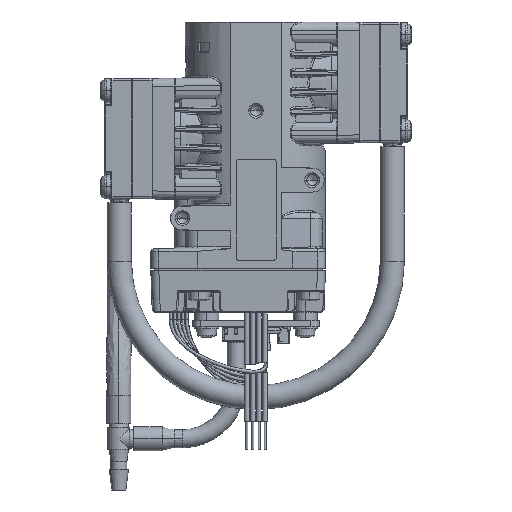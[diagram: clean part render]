
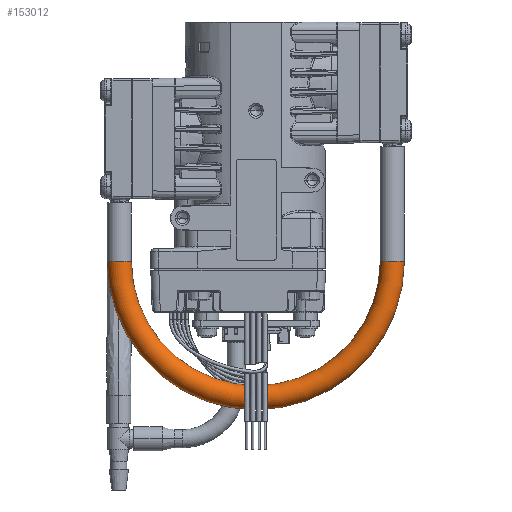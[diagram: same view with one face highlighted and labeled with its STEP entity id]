
A CAD part, left-side view. The second image highlights one B-rep face of the part: STEP entity #153012.
In plain terms, the highlighted toroidal (fillet/blend) face has major radius 34 mm and minor radius 3 mm.
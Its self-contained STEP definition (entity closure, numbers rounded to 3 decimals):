
#28672=CARTESIAN_POINT('',(-7.5,0.04,-30.5));
#28673=DIRECTION('',(1.,0.,0.));
#28674=DIRECTION('',(0.,-1.,0.));
#28675=AXIS2_PLACEMENT_3D('',#28672,#28673,#28674);
#28695=CARTESIAN_POINT('',(-7.5,-33.96,-30.5));
#28696=DIRECTION('',(0.,0.,-1.));
#28697=DIRECTION('',(0.,-1.,0.));
#28698=AXIS2_PLACEMENT_3D('',#28695,#28696,#28697);
#28700=CARTESIAN_POINT('',(-7.5,0.04,-30.5));
#28701=DIRECTION('',(1.,0.,0.));
#28702=DIRECTION('',(0.,-1.,0.));
#28703=AXIS2_PLACEMENT_3D('',#28700,#28701,#28702);
#28705=CARTESIAN_POINT('',(-7.5,34.04,-30.5));
#28706=DIRECTION('',(0.,0.,1.));
#28707=DIRECTION('',(0.,1.,0.));
#28708=AXIS2_PLACEMENT_3D('',#28705,#28706,#28707);
#105849=CARTESIAN_POINT('',(-7.5,-30.96,-30.5));
#105850=CARTESIAN_POINT('',(-7.5,-36.96,-30.5));
#105851=VERTEX_POINT('',#105849);
#105852=VERTEX_POINT('',#105850);
#105853=CARTESIAN_POINT('',(-7.5,31.04,-30.5));
#105854=CARTESIAN_POINT('',(-7.5,37.04,-30.5));
#105855=VERTEX_POINT('',#105853);
#105856=VERTEX_POINT('',#105854);
#153000=CARTESIAN_POINT('',(-7.5,0.04,-30.5));
#153001=DIRECTION('',(1.,0.,0.));
#153002=DIRECTION('',(0.,1.,0.));
#153003=AXIS2_PLACEMENT_3D('',#153000,#153001,#153002);
#153004=TOROIDAL_SURFACE('',#153003,34.,3.);
#153005=ORIENTED_EDGE('',*,*,#152987,.F.);
#153006=ORIENTED_EDGE('',*,*,#152910,.T.);
#153008=ORIENTED_EDGE('',*,*,#153007,.T.);
#153009=ORIENTED_EDGE('',*,*,#152907,.F.);
#153010=EDGE_LOOP('',(#153005,#153006,#153008,#153009));
#153011=FACE_OUTER_BOUND('',#153010,.F.);
#28676=CIRCLE('',#28675,31.);
#28699=CIRCLE('',#28698,3.);
#28704=CIRCLE('',#28703,37.);
#28709=CIRCLE('',#28708,3.);
#152907=EDGE_CURVE('',#105851,#105855,#28676,.T.);
#152910=EDGE_CURVE('',#105852,#105856,#28704,.T.);
#152987=EDGE_CURVE('',#105852,#105851,#28699,.T.);
#153007=EDGE_CURVE('',#105856,#105855,#28709,.T.);
#153012=ADVANCED_FACE('',(#153011),#153004,.T.);
